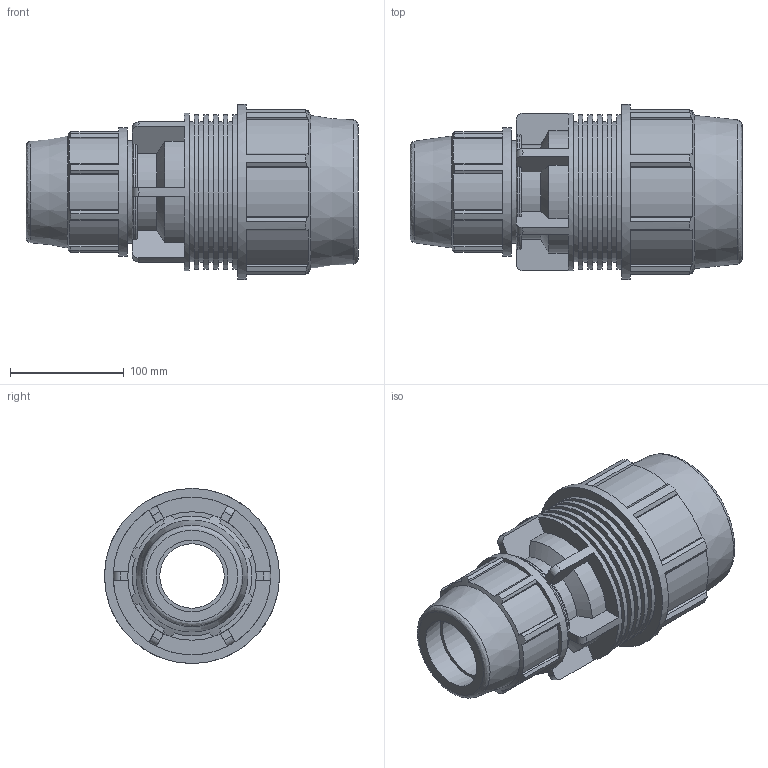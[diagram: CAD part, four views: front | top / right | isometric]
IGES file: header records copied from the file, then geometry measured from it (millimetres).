
Global section: file name: 0711060900630A.ipt; native system: Autodesk Inventor 2015; preprocessor: unknown; author: KIM; date: 20170608.042511; units: millimetre
Bounding box: 292 x 154 x 154 mm (x, y, z)
Volume: 1911675.3 mm3; surface area: 262257.8 mm2
Topology: 1 solids, 1 shells, 207 faces, 580 edges, 392 vertices
Faces by surface type: plane 123, cylinder 54, revolution 20, cone 10
Full cylindrical faces by diameter (mm): 90.4 x1, 113 x1, 123.2 x5, 135.828 x5, 138.6 x1, 154 x1
